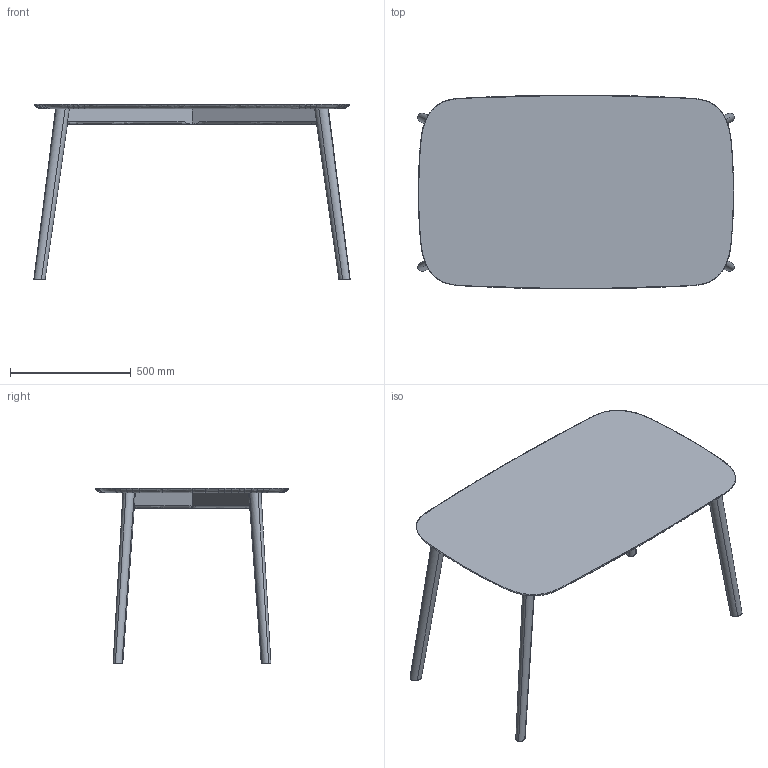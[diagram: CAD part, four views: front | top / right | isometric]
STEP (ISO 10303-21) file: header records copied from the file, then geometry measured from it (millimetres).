
FILE_DESCRIPTION(/* description */ (''),/* implementation_level */ '2;1');
FILE_NAME(/* name */ 'MC3_OS~1',/* time_stamp */ '2021-04-10T10:28:09+02:00',/* author */ (''),/* organization */ (''),/* preprocessor_version */ 'ST-DEVELOPER v16.5',/* originating_system */ '',/* authorisation */ '');
FILE_SCHEMA (('AUTOMOTIVE_DESIGN'));
Length unit declared in the file: millimetre
Products named in the file (1): Document
Bounding box: 1307.38 x 801.5 x 726.94 mm (x, y, z)
Surface area: 2802793.5 mm2 (no closed solid volume)
Topology: 0 solids, 106 shells, 117 faces, 566 edges, 554 vertices
Faces by surface type: bspline 117
Entity records: 21356 total; most frequent: CARTESIAN_POINT 16508, B_SPLINE_CURVE_WITH_KNOTS 662, ORIENTED_EDGE 590, PCURVE 590, DEFINITIONAL_REPRESENTATION 590, SURFACE_CURVE 566, EDGE_CURVE 566, VERTEX_POINT 554
